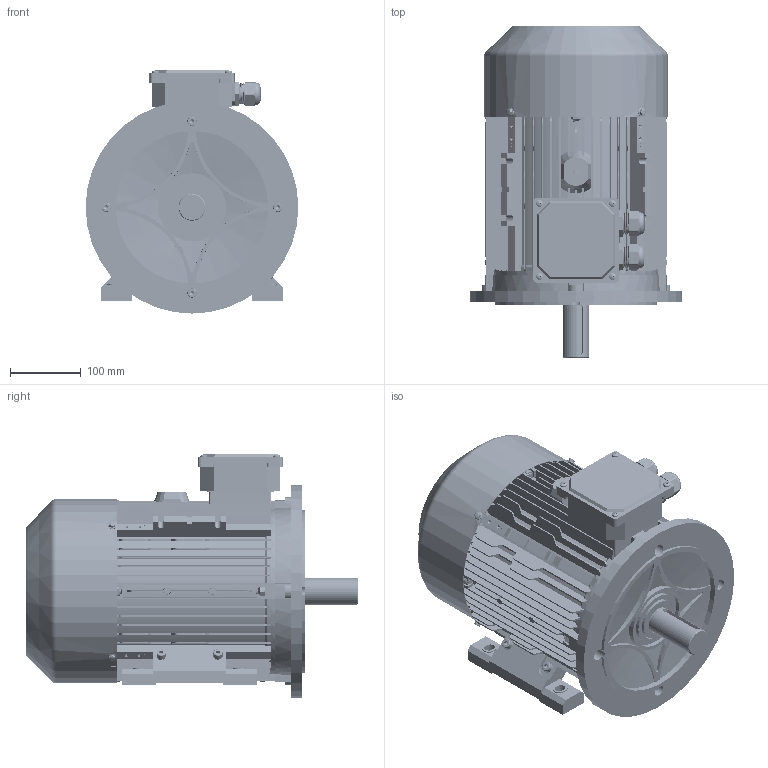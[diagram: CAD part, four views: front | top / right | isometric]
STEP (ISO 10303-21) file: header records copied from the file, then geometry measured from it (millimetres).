
FILE_DESCRIPTION (( 'STEP AP203' ), '1' );
FILE_NAME ('ME3-132S B35 3D.STEP', '2024-07-27T02:21:47', ( 'User' ), ( 'China' ), 'SwSTEP 2.0', 'SolidWorks 2018', '' );
FILE_SCHEMA (( 'CONFIG_CONTROL_DESIGN' ));
Length unit declared in the file: millimetre
Products named in the file (21): MS112-132諉盄碟裔; MS112-132 諉盄碟釱; hexagon socket head cap screws gb_GB_FASTENER_SCREWS_HSHCS M8X30-S; M24 蹟杶; 40X58X7蚐猾; M24 蹟杶簸; ME3-132B5傷裔; hexagon socket head cap screws gb_GB_FASTENER_SCREWS_HSHCS M8X40-S; ME3-132S儂褲; spring lock washers--normal type gb_GB_FASTENER_WASHER_SW 8; hex nuts-style normal-grades ab gb_GB_HEXAGON_TYPE10 M8X1-S; ME3-132S菁褐; hexagon socket head cap screws gb_GB_FASTENER_SCREWS_HSHCS M8X45-S; ME3-132瑞欶; ME3-132 B3傷裔; hexagon socket head cap screws gb_GB_FASTENER_SCREWS_HSHCS M8X35-S; hex flange bolts-heavy grade b gb_GB_FASTENER_BOLT_HFBB M5X10-S; deep groove ball bearings gb_Rolling bearings 6308 GB 276-94; ME3-132S B35   3D; cross recessed pan head screws gb_GB_CROSS_SCREWS_TYPE1 M5X8-8  H type-S; ME3-132S蛌粣
Assembly tree (55 placements, depth 2):
  ME3-132S B35   3D
    ME3-132S儂褲
    ME3-132S菁褐  x2
    ME3-132 B3傷裔
    deep groove ball bearings gb_Rolling bearings 6308 GB 276-94  x2
    ME3-132S蛌粣
    MS112-132 諉盄碟釱
    M24 蹟杶  x2
    M24 蹟杶簸  x2
    hexagon socket head cap screws gb_GB_FASTENER_SCREWS_HSHCS M8X40-S  x4
    hex nuts-style normal-grades ab gb_GB_HEXAGON_TYPE10 M8X1-S  x11
    ME3-132瑞欶
    hex flange bolts-heavy grade b gb_GB_FASTENER_BOLT_HFBB M5X10-S  x4
    cross recessed pan head screws gb_GB_CROSS_SCREWS_TYPE1 M5X8-8  H type-S  x8
    MS112-132諉盄碟裔
    hexagon socket head cap screws gb_GB_FASTENER_SCREWS_HSHCS M8X30-S  x4
    40X58X7蚐猾
    ME3-132B5傷裔
    spring lock washers--normal type gb_GB_FASTENER_WASHER_SW 8  x4
    hexagon socket head cap screws gb_GB_FASTENER_SCREWS_HSHCS M8X45-S  x3
    hexagon socket head cap screws gb_GB_FASTENER_SCREWS_HSHCS M8X35-S
Bounding box: 300 x 467.96 x 343 mm (x, y, z)
Volume: 3859896.4 mm3; surface area: 1833297.7 mm2
Topology: 57 solids, 58 shells, 8602 faces, 20910 edges, 12414 vertices
Faces by surface type: cone 3206, plane 2566, cylinder 2478, torus 232, sphere 76, bspline 44
Entity records: 154361 total; most frequent: CARTESIAN_POINT 37742, ORIENTED_EDGE 24122, DIRECTION 23225, EDGE_CURVE 12061, AXIS2_PLACEMENT_3D 7942, VERTEX_POINT 7596, VECTOR 7341, LINE 7341
